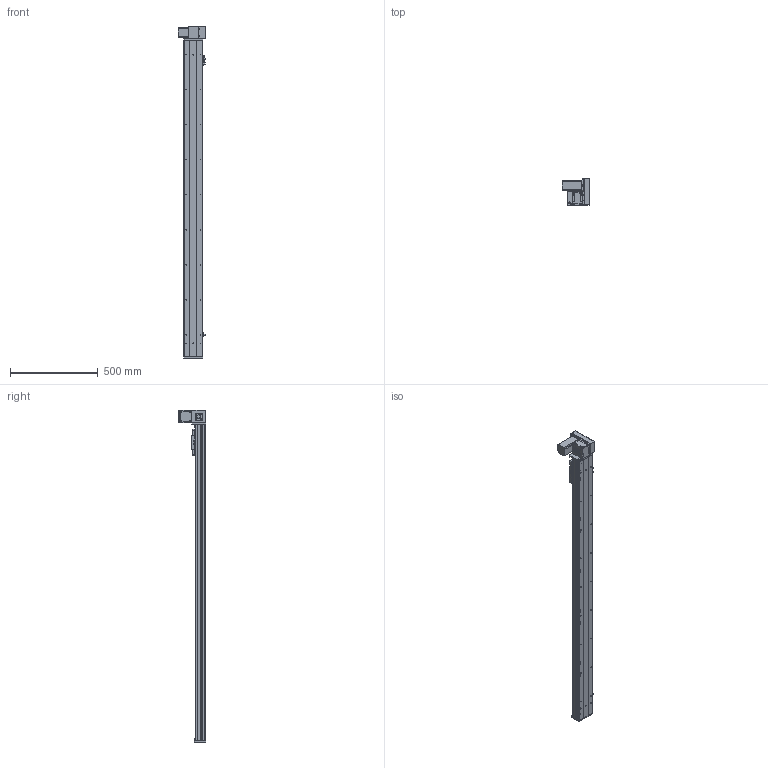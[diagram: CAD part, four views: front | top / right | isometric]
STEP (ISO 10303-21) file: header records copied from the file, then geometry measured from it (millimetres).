
FILE_DESCRIPTION (( 'STEP AP203' ), '1' );
FILE_NAME ('Y10CB-D90-S1550-UR-P400W.STEP', '2020-02-16T03:50:47', ( '微软用户' ), ( '微软中国' ), 'SwSTEP 2.0', 'SolidWorks 2017', '' );
FILE_SCHEMA (( 'CONFIG_CONTROL_DESIGN' ));
Length unit declared in the file: millimetre
Products named in the file (18): 10CB-耜裔; 0B-萇儂楊擘啣; Y135C-陔俋离換覜結え-; san松下电机400不带刹车----; Y100-135俋离換覜ん--; 0B-源倛裔啣; Y10B--々湍喘謫眊--666; 0B-埴倛裔啣; Y10B-耜蚾蟀諉啣----; 10CB-詩湍-; 00B-俋欶BM--; Y10CB- 掛极耜裔啣-毀---; 0CB-雄赽釱---; Y10CB-D90-S1550-UR-P400W; Y10C---詩湍揤啣; 0Cb-俋欶---; 10CB9-掛极; Y10B-々湍喘謫眊楊擘啣--
Assembly tree (21 placements, depth 2):
  Y10CB-D90-S1550-UR-P400W
    0CB-雄赽釱---
    0Cb-俋欶---
    Y10B-々湍喘謫眊楊擘啣--
    0B-萇儂楊擘啣
    san松下电机400不带刹车----
    0B-源倛裔啣
    0B-埴倛裔啣
    10CB-詩湍-
    Y10CB- 掛极耜裔啣-毀---  x2
    Y10C---詩湍揤啣  x2
    10CB9-掛极
    10CB-耜裔
    Y135C-陔俋离換覜結え-
    Y100-135俋离換覜ん--  x3
    Y10B--々湍喘謫眊--666
    Y10B-耜蚾蟀諉啣----
    00B-俋欶BM--
Bounding box: 157 x 155.5 x 1896 mm (x, y, z)
Volume: 4095510.9 mm3; surface area: 1895839.6 mm2
Topology: 21 solids, 21 shells, 1026 faces, 2763 edges, 1802 vertices
Faces by surface type: cylinder 519, plane 483, cone 24
Entity records: 32412 total; most frequent: CARTESIAN_POINT 5913, DIRECTION 5202, ORIENTED_EDGE 4996, EDGE_CURVE 2498, AXIS2_PLACEMENT_3D 1861, VERTEX_POINT 1628, VECTOR 1480, LINE 1480
